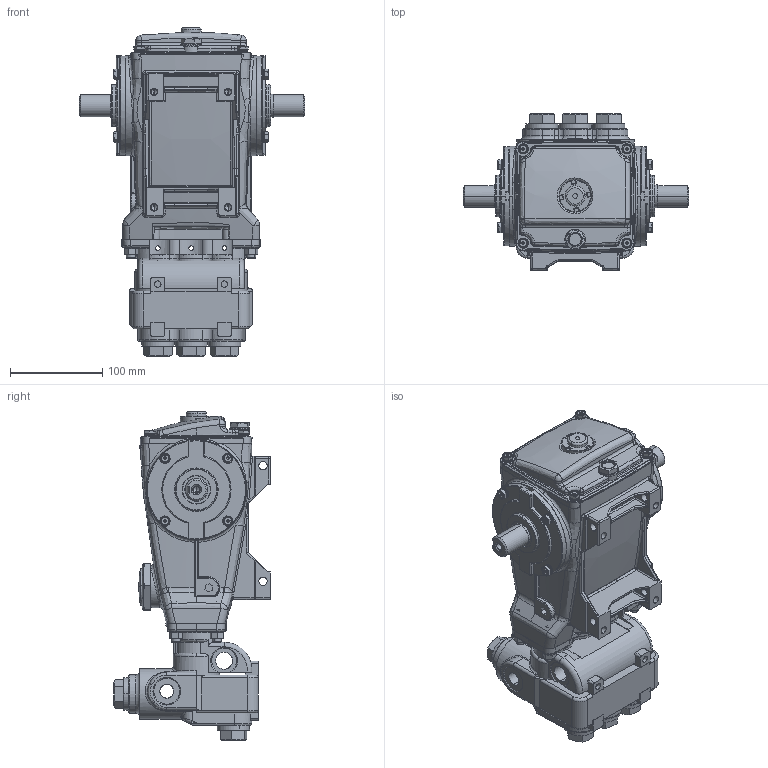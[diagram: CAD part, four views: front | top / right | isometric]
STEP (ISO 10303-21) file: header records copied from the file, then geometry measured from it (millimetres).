
FILE_DESCRIPTION (( 'STEP AP214' ), '1' );
FILE_NAME ('530.STEP', '2012-11-23T11:00:57', ( '' ), ( '' ), 'SwSTEP 2.0', 'SolidWorks 2012', '' );
FILE_SCHEMA (( 'AUTOMOTIVE_DESIGN' ));
Length unit declared in the file: millimetre
Products named in the file (1): 530
Bounding box: 244 x 169.5 x 355.3 mm (x, y, z)
Volume: 2321856.1 mm3; surface area: 472550.5 mm2
Topology: 1 solids, 34 shells, 3791 faces, 9612 edges, 6046 vertices
Faces by surface type: plane 1656, cylinder 909, bspline 579, torus 356, cone 258, sphere 33
Entity records: 171157 total; most frequent: CARTESIAN_POINT 55211, ORIENTED_EDGE 19070, DIRECTION 16929, EDGE_CURVE 9535, VERTEX_POINT 6044, AXIS2_PLACEMENT_3D 6017, LINE 4895, VECTOR 4895
